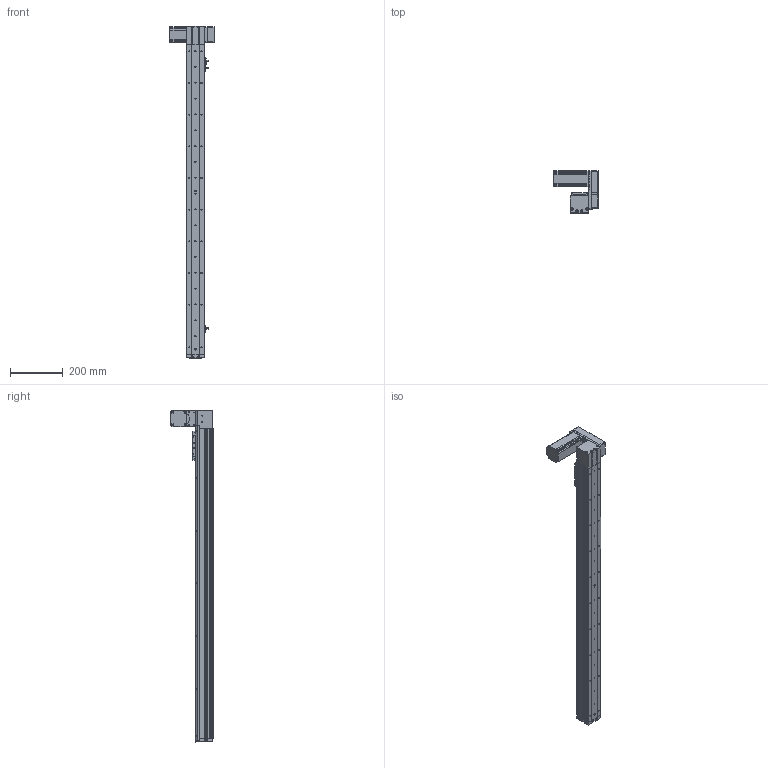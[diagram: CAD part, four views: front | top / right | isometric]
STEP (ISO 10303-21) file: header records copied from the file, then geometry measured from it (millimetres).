
FILE_DESCRIPTION (( 'STEP AP214' ), '1' );
FILE_NAME ('KSD68BS-S1000-MLU-CR.STEP', '2019-08-27T08:15:32', ( '微软用户' ), ( '微软中国' ), 'SwSTEP 2.0', 'SolidWorks 2014', '' );
FILE_SCHEMA (( 'AUTOMOTIVE_DESIGN' ));
Length unit declared in the file: millimetre
Products named in the file (14): 68宽单导轨全封闭同步带端板; 68单导轨全封闭同步带电机座左; 68单导轨全封闭同步带安装板; 悵誘欶奻狟殏; 68宽马达安装板连板上折同步带; 感应片68宽全封闭; U倰嫖萇EEㄜSX672; 台达ECMA－C20604AS伺服电机（400W); KSD68BS 1000行程底板全封闭; KSD68BS-S1000-MLU-CR; KSD68BS 1000行程盖板全封闭; 68遵裔啣揤啣1; 68宽单导轨全封闭丝杆传动安装板1防护罩; KSD68BS 1000行程侧板全封闭
Assembly tree (17 placements, depth 2):
  KSD68BS-S1000-MLU-CR
    KSD68BS 1000行程底板全封闭
    台达ECMA－C20604AS伺服电机（400W)
    U倰嫖萇EEㄜSX672  x3
    感应片68宽全封闭
    68宽马达安装板连板上折同步带
    悵誘欶奻狟殏
    68单导轨全封闭同步带安装板
    68单导轨全封闭同步带电机座左
    68宽单导轨全封闭同步带端板
    KSD68BS 1000行程侧板全封闭  x2
    68宽单导轨全封闭丝杆传动安装板1防护罩
    68遵裔啣揤啣1  x2
    KSD68BS 1000行程盖板全封闭
Bounding box: 167.2 x 159.5 x 1258.1 mm (x, y, z)
Volume: 2535944.3 mm3; surface area: 972434.5 mm2
Topology: 18 solids, 18 shells, 1525 faces, 4339 edges, 2774 vertices
Faces by surface type: cylinder 728, plane 629, cone 168
Entity records: 48463 total; most frequent: CARTESIAN_POINT 8357, DIRECTION 7246, ORIENTED_EDGE 6930, EDGE_CURVE 3465, AXIS2_PLACEMENT_3D 2619, VERTEX_POINT 2272, LINE 2008, VECTOR 2008
